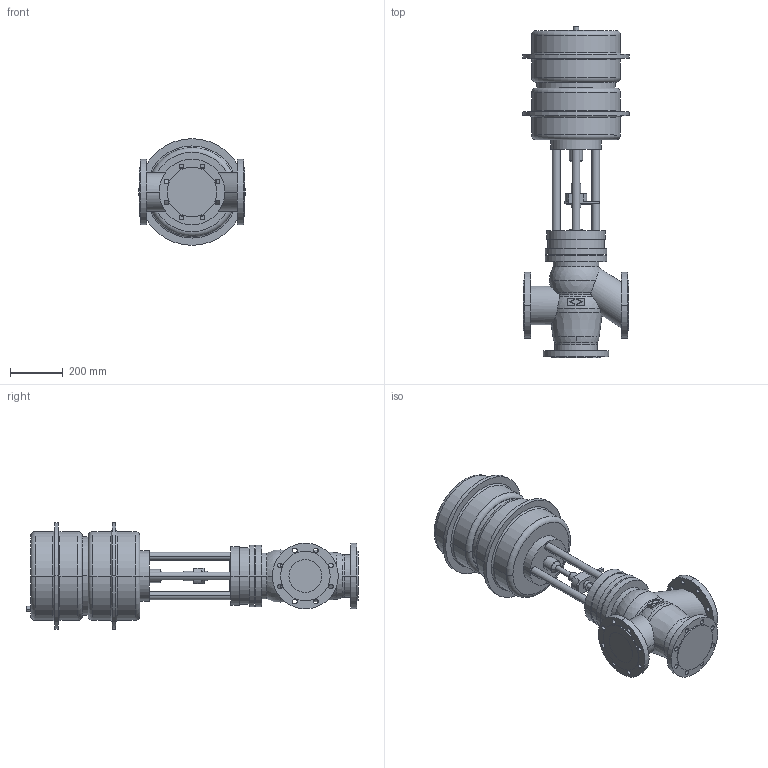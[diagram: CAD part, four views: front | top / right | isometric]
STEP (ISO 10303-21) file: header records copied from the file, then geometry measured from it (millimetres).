
FILE_DESCRIPTION(('OneSpaceDesigner STEP Export'),'2;1');
FILE_NAME('c000002369.stp','2007-01-26T12:33:20',(''),(''),'OneSpace Designer STEP processor for AP214 (Solid Model)','OneSpace Designer 14.00B 27-May-2006 (C) CoCreate Software GmbH','');
FILE_SCHEMA(('AUTOMOTIVE_DESIGN { 1 0 10303 214 1 1 1 1 }'));
Length unit declared in the file: millimetre
Products named in the file (2): 1; 2
Bounding box: 405 x 1261.5 x 405 mm (x, y, z)
Volume: 60621871.1 mm3; surface area: 1731605.5 mm2
Topology: 2 solids, 2 shells, 241 faces, 592 edges, 382 vertices
Faces by surface type: cylinder 128, plane 75, torus 26, sphere 8, cone 4
Entity records: 6438 total; most frequent: CARTESIAN_POINT 1290, ORIENTED_EDGE 1168, DIRECTION 920, EDGE_CURVE 584, VERTEX_POINT 382, AXIS2_PLACEMENT_3D 349, EDGE_LOOP 324, FACE_OUTER_BOUND 241
